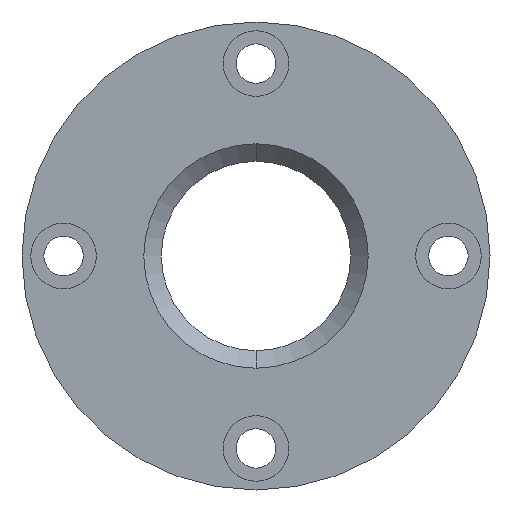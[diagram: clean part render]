
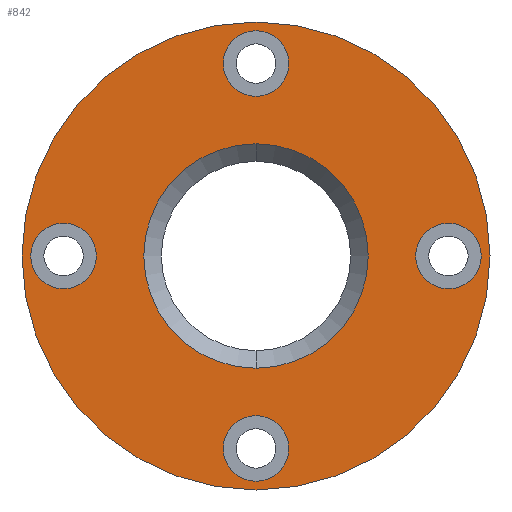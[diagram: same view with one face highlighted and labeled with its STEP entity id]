
A CAD part, front view. The second image highlights one B-rep face of the part: STEP entity #842.
In plain terms, the highlighted planar face has unit normal (0, -1, 0).
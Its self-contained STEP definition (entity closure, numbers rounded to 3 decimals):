
#5 = DIRECTION ( 'NONE',  ( 0., 0., -1. ) ) ;
#6 = AXIS2_PLACEMENT_3D ( 'NONE', #57, #48, #52 ) ;
#13 = DIRECTION ( 'NONE',  ( 0., -1., 0. ) ) ;
#14 = CARTESIAN_POINT ( 'NONE',  ( -44., 0., -7.5 ) ) ;
#21 = DIRECTION ( 'NONE',  ( 0., 0., -1. ) ) ;
#33 = CARTESIAN_POINT ( 'NONE',  ( 44., 0., 7.5 ) ) ;
#48 = DIRECTION ( 'NONE',  ( 0., -1., 0. ) ) ;
#52 = DIRECTION ( 'NONE',  ( 0., 0., -1. ) ) ;
#57 = CARTESIAN_POINT ( 'NONE',  ( -44., 0., 0. ) ) ;
#72 = AXIS2_PLACEMENT_3D ( 'NONE', #421, #982, #21 ) ;
#80 = VERTEX_POINT ( 'NONE', #489 ) ;
#83 = DIRECTION ( 'NONE',  ( 0., -1., 0. ) ) ;
#100 = CARTESIAN_POINT ( 'NONE',  ( 0., 0., -51.5 ) ) ;
#117 = EDGE_LOOP ( 'NONE', ( #466, #508 ) ) ;
#127 = CIRCLE ( 'NONE', #337, 25.65 ) ;
#129 = CARTESIAN_POINT ( 'NONE',  ( 44., 0., -7.5 ) ) ;
#137 = CARTESIAN_POINT ( 'NONE',  ( 0., 0., -36.5 ) ) ;
#140 = AXIS2_PLACEMENT_3D ( 'NONE', #520, #350, #437 ) ;
#157 = ORIENTED_EDGE ( 'NONE', *, *, #242, .F. ) ;
#166 = DIRECTION ( 'NONE',  ( 0., -1., 0. ) ) ;
#177 = CIRCLE ( 'NONE', #702, 53.5 ) ;
#178 = DIRECTION ( 'NONE',  ( 0., 0., -1. ) ) ;
#181 = VERTEX_POINT ( 'NONE', #817 ) ;
#194 = EDGE_LOOP ( 'NONE', ( #889, #925 ) ) ;
#207 = ORIENTED_EDGE ( 'NONE', *, *, #486, .F. ) ;
#242 = EDGE_CURVE ( 'NONE', #907, #419, #971, .T. ) ;
#243 = VERTEX_POINT ( 'NONE', #650 ) ;
#252 = FACE_BOUND ( 'NONE', #194, .T. ) ;
#256 = CARTESIAN_POINT ( 'NONE',  ( 0., 0., -44. ) ) ;
#258 = EDGE_LOOP ( 'NONE', ( #157, #945 ) ) ;
#265 = CARTESIAN_POINT ( 'NONE',  ( 0., 0., 44. ) ) ;
#266 = DIRECTION ( 'NONE',  ( 0., 0., -1. ) ) ;
#283 = DIRECTION ( 'NONE',  ( -1., 0., 0. ) ) ;
#284 = AXIS2_PLACEMENT_3D ( 'NONE', #405, #395, #946 ) ;
#297 = VERTEX_POINT ( 'NONE', #900 ) ;
#304 = DIRECTION ( 'NONE',  ( 0., 0., -1. ) ) ;
#305 = CARTESIAN_POINT ( 'NONE',  ( 0., 0., -25.65 ) ) ;
#323 = VERTEX_POINT ( 'NONE', #33 ) ;
#324 = CARTESIAN_POINT ( 'NONE',  ( 0., 0., 0. ) ) ;
#326 = CARTESIAN_POINT ( 'NONE',  ( 0., 0., 0. ) ) ;
#334 = VERTEX_POINT ( 'NONE', #364 ) ;
#336 = AXIS2_PLACEMENT_3D ( 'NONE', #722, #709, #887 ) ;
#337 = AXIS2_PLACEMENT_3D ( 'NONE', #324, #83, #877 ) ;
#340 = EDGE_CURVE ( 'NONE', #968, #243, #177, .T. ) ;
#345 = FACE_BOUND ( 'NONE', #492, .T. ) ;
#350 = DIRECTION ( 'NONE',  ( 0., 1., 0. ) ) ;
#356 = CIRCLE ( 'NONE', #906, 7.5 ) ;
#364 = CARTESIAN_POINT ( 'NONE',  ( 0., 0., 51.5 ) ) ;
#389 = CIRCLE ( 'NONE', #856, 7.5 ) ;
#395 = DIRECTION ( 'NONE',  ( 0., -1., 0. ) ) ;
#405 = CARTESIAN_POINT ( 'NONE',  ( 44., 0., 0. ) ) ;
#406 = CIRCLE ( 'NONE', #427, 25.65 ) ;
#407 = EDGE_CURVE ( 'NONE', #564, #297, #1000, .T. ) ;
#417 = CARTESIAN_POINT ( 'NONE',  ( 0., 0., 44. ) ) ;
#419 = VERTEX_POINT ( 'NONE', #137 ) ;
#421 = CARTESIAN_POINT ( 'NONE',  ( 0., 0., -44. ) ) ;
#427 = AXIS2_PLACEMENT_3D ( 'NONE', #326, #485, #304 ) ;
#437 = DIRECTION ( 'NONE',  ( -1., 0., 0. ) ) ;
#451 = DIRECTION ( 'NONE',  ( -1., 0., 0. ) ) ;
#459 = EDGE_CURVE ( 'NONE', #323, #919, #767, .T. ) ;
#466 = ORIENTED_EDGE ( 'NONE', *, *, #340, .F. ) ;
#485 = DIRECTION ( 'NONE',  ( 0., -1., 0. ) ) ;
#486 = EDGE_CURVE ( 'NONE', #919, #323, #964, .T. ) ;
#489 = CARTESIAN_POINT ( 'NONE',  ( 0., 0., 36.5 ) ) ;
#492 = EDGE_LOOP ( 'NONE', ( #901, #812 ) ) ;
#508 = ORIENTED_EDGE ( 'NONE', *, *, #977, .F. ) ;
#513 = DIRECTION ( 'NONE',  ( 0., -1., 0. ) ) ;
#517 = FACE_OUTER_BOUND ( 'NONE', #117, .T. ) ;
#520 = CARTESIAN_POINT ( 'NONE',  ( 0., 0., 0. ) ) ;
#528 = AXIS2_PLACEMENT_3D ( 'NONE', #256, #513, #266 ) ;
#564 = VERTEX_POINT ( 'NONE', #14 ) ;
#582 = DIRECTION ( 'NONE',  ( 0., -1., 0. ) ) ;
#602 = EDGE_CURVE ( 'NONE', #706, #181, #406, .T. ) ;
#615 = ORIENTED_EDGE ( 'NONE', *, *, #407, .F. ) ;
#631 = DIRECTION ( 'NONE',  ( 0., 0., -1. ) ) ;
#643 = EDGE_LOOP ( 'NONE', ( #207, #1016 ) ) ;
#650 = CARTESIAN_POINT ( 'NONE',  ( 53.5, 0., 0. ) ) ;
#654 = FACE_BOUND ( 'NONE', #258, .T. ) ;
#679 = EDGE_CURVE ( 'NONE', #334, #80, #717, .T. ) ;
#685 = CARTESIAN_POINT ( 'NONE',  ( -53.5, 0., 0. ) ) ;
#690 = CARTESIAN_POINT ( 'NONE',  ( 0., 0., 0. ) ) ;
#702 = AXIS2_PLACEMENT_3D ( 'NONE', #998, #917, #451 ) ;
#706 = VERTEX_POINT ( 'NONE', #305 ) ;
#709 = DIRECTION ( 'NONE',  ( 0., -1., 0. ) ) ;
#712 = CARTESIAN_POINT ( 'NONE',  ( -44., 0., 0. ) ) ;
#717 = CIRCLE ( 'NONE', #734, 7.5 ) ;
#722 = CARTESIAN_POINT ( 'NONE',  ( 44., 0., 0. ) ) ;
#723 = EDGE_LOOP ( 'NONE', ( #615, #860 ) ) ;
#729 = FACE_BOUND ( 'NONE', #643, .T. ) ;
#734 = AXIS2_PLACEMENT_3D ( 'NONE', #417, #13, #631 ) ;
#759 = EDGE_CURVE ( 'NONE', #181, #706, #127, .T. ) ;
#760 = EDGE_CURVE ( 'NONE', #297, #564, #389, .T. ) ;
#767 = CIRCLE ( 'NONE', #284, 7.5 ) ;
#786 = CIRCLE ( 'NONE', #828, 53.5 ) ;
#812 = ORIENTED_EDGE ( 'NONE', *, *, #759, .F. ) ;
#817 = CARTESIAN_POINT ( 'NONE',  ( 0., 0., 25.65 ) ) ;
#820 = PLANE ( 'NONE',  #140 ) ;
#828 = AXIS2_PLACEMENT_3D ( 'NONE', #690, #845, #283 ) ;
#842 = ADVANCED_FACE ( 'NONE', ( #654, #729, #252, #970, #345, #517 ), #820, .F. ) ;
#845 = DIRECTION ( 'NONE',  ( 0., 1., 0. ) ) ;
#856 = AXIS2_PLACEMENT_3D ( 'NONE', #712, #166, #5 ) ;
#858 = EDGE_CURVE ( 'NONE', #80, #334, #356, .T. ) ;
#860 = ORIENTED_EDGE ( 'NONE', *, *, #760, .F. ) ;
#877 = DIRECTION ( 'NONE',  ( 0., 0., -1. ) ) ;
#887 = DIRECTION ( 'NONE',  ( 0., 0., -1. ) ) ;
#889 = ORIENTED_EDGE ( 'NONE', *, *, #858, .F. ) ;
#900 = CARTESIAN_POINT ( 'NONE',  ( -44., 0., 7.5 ) ) ;
#901 = ORIENTED_EDGE ( 'NONE', *, *, #602, .F. ) ;
#906 = AXIS2_PLACEMENT_3D ( 'NONE', #265, #582, #178 ) ;
#907 = VERTEX_POINT ( 'NONE', #100 ) ;
#915 = EDGE_CURVE ( 'NONE', #419, #907, #966, .T. ) ;
#917 = DIRECTION ( 'NONE',  ( 0., 1., 0. ) ) ;
#919 = VERTEX_POINT ( 'NONE', #129 ) ;
#925 = ORIENTED_EDGE ( 'NONE', *, *, #679, .F. ) ;
#945 = ORIENTED_EDGE ( 'NONE', *, *, #915, .F. ) ;
#946 = DIRECTION ( 'NONE',  ( 0., 0., -1. ) ) ;
#964 = CIRCLE ( 'NONE', #336, 7.5 ) ;
#966 = CIRCLE ( 'NONE', #72, 7.5 ) ;
#968 = VERTEX_POINT ( 'NONE', #685 ) ;
#970 = FACE_BOUND ( 'NONE', #723, .T. ) ;
#971 = CIRCLE ( 'NONE', #528, 7.5 ) ;
#977 = EDGE_CURVE ( 'NONE', #243, #968, #786, .T. ) ;
#982 = DIRECTION ( 'NONE',  ( 0., -1., 0. ) ) ;
#998 = CARTESIAN_POINT ( 'NONE',  ( 0., 0., 0. ) ) ;
#1000 = CIRCLE ( 'NONE', #6, 7.5 ) ;
#1016 = ORIENTED_EDGE ( 'NONE', *, *, #459, .F. ) ;
